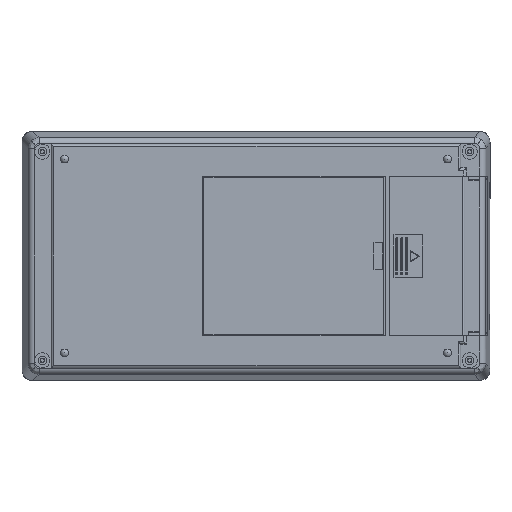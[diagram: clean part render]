
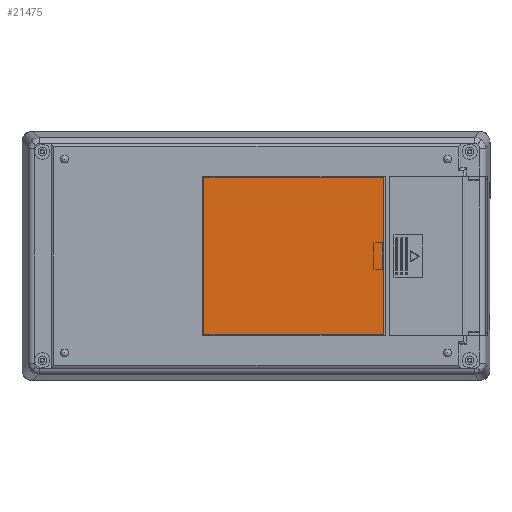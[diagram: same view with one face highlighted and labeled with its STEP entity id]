
A CAD part, front view. The second image highlights one B-rep face of the part: STEP entity #21475.
In plain terms, the highlighted planar face has unit normal (0, -1, 0).
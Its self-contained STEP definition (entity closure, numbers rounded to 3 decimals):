
#1904 = CARTESIAN_POINT ( 'NONE',  ( 52.1, -18.3, -32. ) ) ;
#1972 = ORIENTED_EDGE ( 'NONE', *, *, #11405, .T. ) ;
#2347 = CARTESIAN_POINT ( 'NONE',  ( 52.1, -18.3, -32. ) ) ;
#2460 = LINE ( 'NONE', #2347, #6593 ) ;
#2673 = FACE_OUTER_BOUND ( 'NONE', #22040, .T. ) ;
#4832 = VERTEX_POINT ( 'NONE', #18674 ) ;
#6282 = CARTESIAN_POINT ( 'NONE',  ( -21.2, -18.3, 32. ) ) ;
#6593 = VECTOR ( 'NONE', #13031, 1000. ) ;
#6678 = EDGE_CURVE ( 'NONE', #12797, #4832, #11843, .T. ) ;
#6815 = CARTESIAN_POINT ( 'NONE',  ( -95.3, -18.3, -50.7 ) ) ;
#6913 = CARTESIAN_POINT ( 'NONE',  ( -21.2, -18.3, -32. ) ) ;
#7458 = DIRECTION ( 'NONE',  ( 0., 0., -1. ) ) ;
#8183 = LINE ( 'NONE', #14615, #21866 ) ;
#9472 = CARTESIAN_POINT ( 'NONE',  ( 52.1, -18.3, 32. ) ) ;
#10006 = VERTEX_POINT ( 'NONE', #6913 ) ;
#10427 = DIRECTION ( 'NONE',  ( 0., 0., -1. ) ) ;
#11292 = DIRECTION ( 'NONE',  ( 0., 0., 1. ) ) ;
#11405 = EDGE_CURVE ( 'NONE', #13437, #10006, #8183, .T. ) ;
#11634 = EDGE_CURVE ( 'NONE', #4832, #13437, #22127, .T. ) ;
#11843 = LINE ( 'NONE', #9472, #20742 ) ;
#12238 = ORIENTED_EDGE ( 'NONE', *, *, #12883, .T. ) ;
#12797 = VERTEX_POINT ( 'NONE', #1904 ) ;
#12883 = EDGE_CURVE ( 'NONE', #10006, #12797, #2460, .T. ) ;
#13031 = DIRECTION ( 'NONE',  ( 1., 0., 0. ) ) ;
#13437 = VERTEX_POINT ( 'NONE', #6282 ) ;
#14615 = CARTESIAN_POINT ( 'NONE',  ( -21.2, -18.3, 32. ) ) ;
#14800 = ORIENTED_EDGE ( 'NONE', *, *, #6678, .T. ) ;
#15131 = AXIS2_PLACEMENT_3D ( 'NONE', #6815, #21100, #10427 ) ;
#17379 = VECTOR ( 'NONE', #22244, 1000. ) ;
#18673 = ORIENTED_EDGE ( 'NONE', *, *, #11634, .T. ) ;
#18674 = CARTESIAN_POINT ( 'NONE',  ( 52.1, -18.3, 32. ) ) ;
#19301 = PLANE ( 'NONE',  #15131 ) ;
#20486 = CARTESIAN_POINT ( 'NONE',  ( 52.1, -18.3, 32. ) ) ;
#20742 = VECTOR ( 'NONE', #11292, 1000. ) ;
#21100 = DIRECTION ( 'NONE',  ( 0., -1., 0. ) ) ;
#21475 = ADVANCED_FACE ( 'NONE', ( #2673 ), #19301, .T. ) ;
#21866 = VECTOR ( 'NONE', #7458, 1000. ) ;
#22040 = EDGE_LOOP ( 'NONE', ( #12238, #14800, #18673, #1972 ) ) ;
#22127 = LINE ( 'NONE', #20486, #17379 ) ;
#22244 = DIRECTION ( 'NONE',  ( -1., 0., 0. ) ) ;
